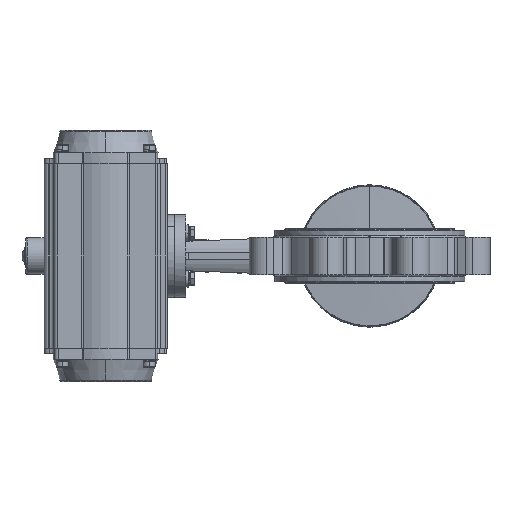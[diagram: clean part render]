
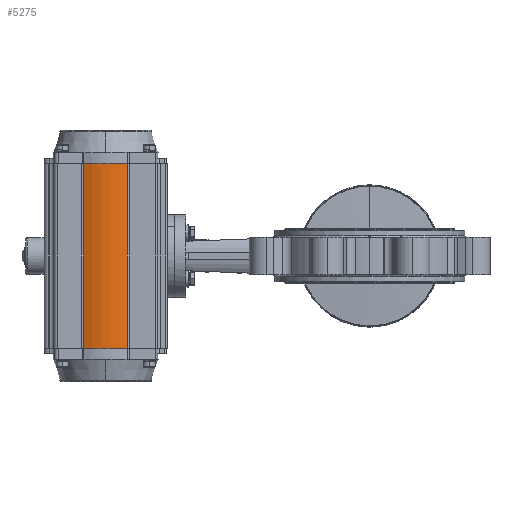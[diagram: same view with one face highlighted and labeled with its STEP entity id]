
A CAD part, left-side view. The second image highlights one B-rep face of the part: STEP entity #5275.
In plain terms, the highlighted cylindrical face has radius 57.5 mm (diameter 115 mm), a partial arc.
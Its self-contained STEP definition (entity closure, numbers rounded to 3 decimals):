
#2667 = EDGE_CURVE ( 'NONE', #63747, #70055, #7145, .T. ) ;
#4069 = DIRECTION ( 'NONE',  ( 0., 0., 1. ) ) ;
#5275 = ADVANCED_FACE ( 'NONE', ( #41876 ), #31301, .T. ) ;
#7145 = CIRCLE ( 'NONE', #70037, 57.5 ) ;
#9924 = DIRECTION ( 'NONE',  ( 0., 0., -1. ) ) ;
#10800 = DIRECTION ( 'NONE',  ( 0., 0., 1. ) ) ;
#11235 = CARTESIAN_POINT ( 'NONE',  ( -52.44, 309.586, -100. ) ) ;
#12541 = CARTESIAN_POINT ( 'NONE',  ( -52.44, 309.586, 100. ) ) ;
#14834 = DIRECTION ( 'NONE',  ( 1., 0., 0. ) ) ;
#14961 = EDGE_LOOP ( 'NONE', ( #23593, #20437, #24836, #41689 ) ) ;
#20437 = ORIENTED_EDGE ( 'NONE', *, *, #69232, .T. ) ;
#21252 = VERTEX_POINT ( 'NONE', #11235 ) ;
#23593 = ORIENTED_EDGE ( 'NONE', *, *, #2667, .F. ) ;
#24836 = ORIENTED_EDGE ( 'NONE', *, *, #35376, .T. ) ;
#24909 = CARTESIAN_POINT ( 'NONE',  ( -52.44, 262.414, -360.72 ) ) ;
#25929 = CARTESIAN_POINT ( 'NONE',  ( 0., 286., 100. ) ) ;
#25977 = AXIS2_PLACEMENT_3D ( 'NONE', #65537, #10800, #14834 ) ;
#27473 = CARTESIAN_POINT ( 'NONE',  ( -52.44, 262.414, 100. ) ) ;
#27601 = CARTESIAN_POINT ( 'NONE',  ( -52.44, 262.414, -100. ) ) ;
#27666 = DIRECTION ( 'NONE',  ( 0., 0., 1. ) ) ;
#29482 = CIRCLE ( 'NONE', #25977, 57.5 ) ;
#31301 = CYLINDRICAL_SURFACE ( 'NONE', #46952, 57.5 ) ;
#34445 = DIRECTION ( 'NONE',  ( 0., 0., 1. ) ) ;
#35376 = EDGE_CURVE ( 'NONE', #21252, #68127, #29482, .T. ) ;
#41689 = ORIENTED_EDGE ( 'NONE', *, *, #50479, .T. ) ;
#41876 = FACE_OUTER_BOUND ( 'NONE', #14961, .T. ) ;
#44773 = CARTESIAN_POINT ( 'NONE',  ( 0., 286., -100. ) ) ;
#46952 = AXIS2_PLACEMENT_3D ( 'NONE', #44773, #27666, #54664 ) ;
#50479 = EDGE_CURVE ( 'NONE', #68127, #70055, #51584, .T. ) ;
#51584 = LINE ( 'NONE', #24909, #60277 ) ;
#52788 = VECTOR ( 'NONE', #9924, 1000. ) ;
#54664 = DIRECTION ( 'NONE',  ( 1., 0., 0. ) ) ;
#54812 = CARTESIAN_POINT ( 'NONE',  ( -52.44, 309.586, -100. ) ) ;
#58051 = DIRECTION ( 'NONE',  ( 1., 0., 0. ) ) ;
#60277 = VECTOR ( 'NONE', #34445, 1000. ) ;
#63747 = VERTEX_POINT ( 'NONE', #12541 ) ;
#65537 = CARTESIAN_POINT ( 'NONE',  ( 0., 286., -100. ) ) ;
#68127 = VERTEX_POINT ( 'NONE', #27601 ) ;
#69232 = EDGE_CURVE ( 'NONE', #63747, #21252, #70497, .T. ) ;
#70037 = AXIS2_PLACEMENT_3D ( 'NONE', #25929, #4069, #58051 ) ;
#70055 = VERTEX_POINT ( 'NONE', #27473 ) ;
#70497 = LINE ( 'NONE', #54812, #52788 ) ;
